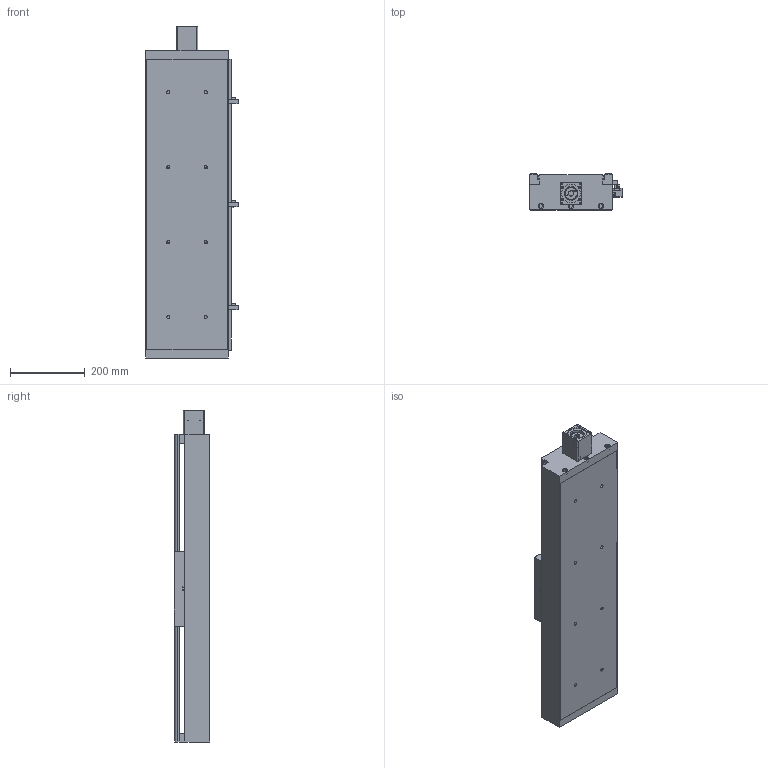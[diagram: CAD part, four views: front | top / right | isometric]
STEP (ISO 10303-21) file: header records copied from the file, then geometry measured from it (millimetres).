
FILE_DESCRIPTION((''),'2;1');
FILE_NAME('E:\libraries\UIA actuator library 2016\standard actuator\UIA220R20NDC\UIA220R20NDC ball screw 20\UIA220R20NDC-_ _ _-R20_ _ stp file, 01May16\UIA220R20NDC-550-R20_ _.stp','2016-04-29T15:19:27',('h029'),(''),'Autodesk Inventor 11','Autodesk Inventor 11','');
FILE_SCHEMA(('AUTOMOTIVE_DESIGN { 1 0 10303 214 1 1 1 1 }'));
Length unit declared in the file: millimetre
Products named in the file (10): UIA220R20NDC-550-R20_ _; UIA220R20NDC-body; 41-100 0010 CARRIAGE; sensor rail; Sensor Switch; motor mount M60; SOH-32C; SOH-32C-3; SOH-32C-1; SOH-32C-2
Assembly tree (9 placements, depth 3):
  UIA220R20NDC-550-R20_ _
    UIA220R20NDC-body
    41-100 0010 CARRIAGE
    sensor rail
    Sensor Switch
    motor mount M60
    SOH-32C
      SOH-32C-3
      SOH-32C-1
      SOH-32C-2
Bounding box: 246.5 x 96 x 886 mm (x, y, z)
Volume: 5453832.6 mm3; surface area: 1259600.6 mm2
Topology: 8 solids, 8 shells, 512 faces, 1366 edges, 898 vertices
Faces by surface type: plane 341, bspline 121, cylinder 48, cone 2
Full cylindrical faces by diameter (mm): 3.242 x2, 4.5 x2, 7 x4, 7.5 x2, 12 x2, 13.8 x3, 14 x4, 15 x1, 32 x3, 37 x1, 46.9 x1, 47.1 x1
Entity records: 16726 total; most frequent: CARTESIAN_POINT 4732, ORIENTED_EDGE 2330, DIRECTION 2281, EDGE_CURVE 1165, VECTOR 849, LINE 849, VERTEX_POINT 824, EDGE_LOOP 743
